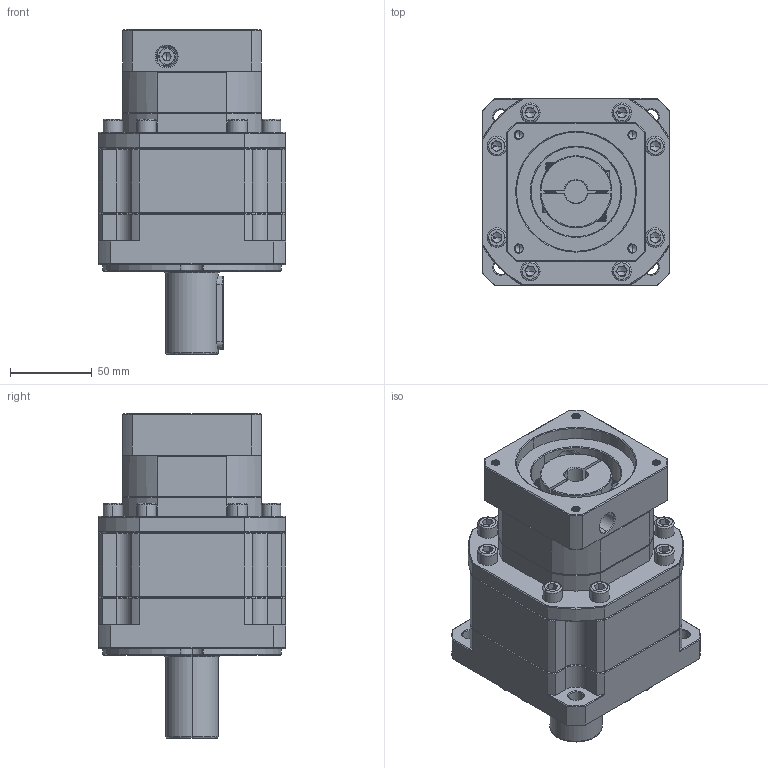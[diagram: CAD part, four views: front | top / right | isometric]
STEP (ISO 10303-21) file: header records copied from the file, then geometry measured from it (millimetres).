
FILE_DESCRIPTION (( 'STEP AP214' ), '1' );
FILE_NAME ('ZB115A-D32-L2-P2-14-73-69.6X69.6-M6.step', '2023-08-26T10:01:55', ( '' ), ( '' ), 'SwSTEP 2.0', 'SolidWorks 2016', '' );
FILE_SCHEMA (( 'AUTOMOTIVE_DESIGN' ));
Length unit declared in the file: millimetre
Products named in the file (1): ZB115A-D32-L2-P2-14-73-69.6X69.6-M6
Bounding box: 115 x 115 x 199 mm (x, y, z)
Volume: 1375556.2 mm3; surface area: 134158.9 mm2
Topology: 5 solids, 6 shells, 2413 faces, 6327 edges, 4016 vertices
Faces by surface type: plane 1190, bspline 427, cylinder 425, cone 356, torus 15
Entity records: 128561 total; most frequent: CARTESIAN_POINT 46250, ORIENTED_EDGE 12578, DIRECTION 9952, EDGE_CURVE 6289, LINE 4040, VECTOR 4040, VERTEX_POINT 4016, AXIS2_PLACEMENT_3D 2956
